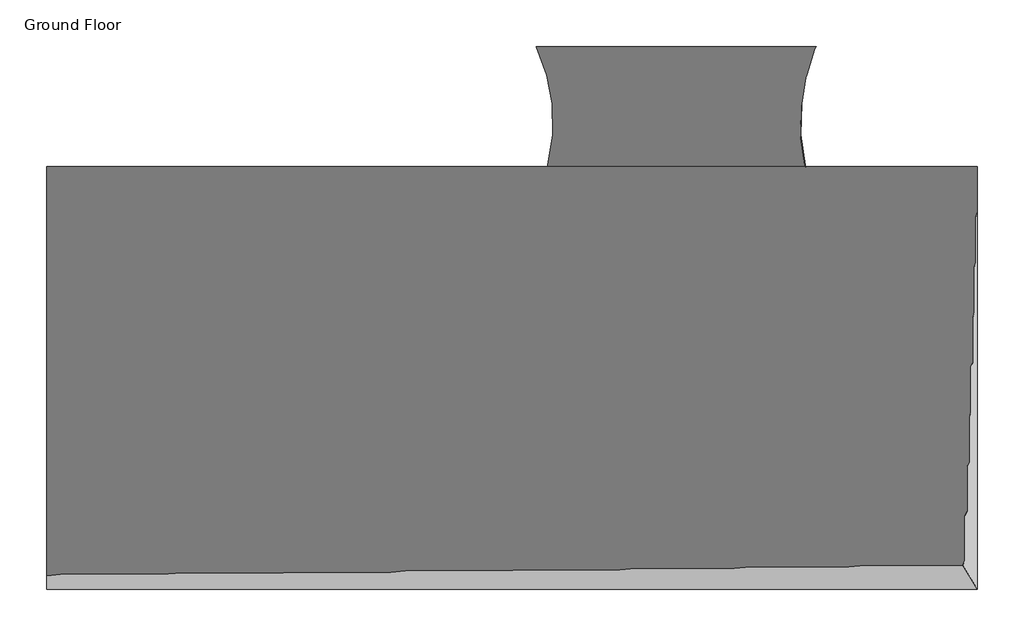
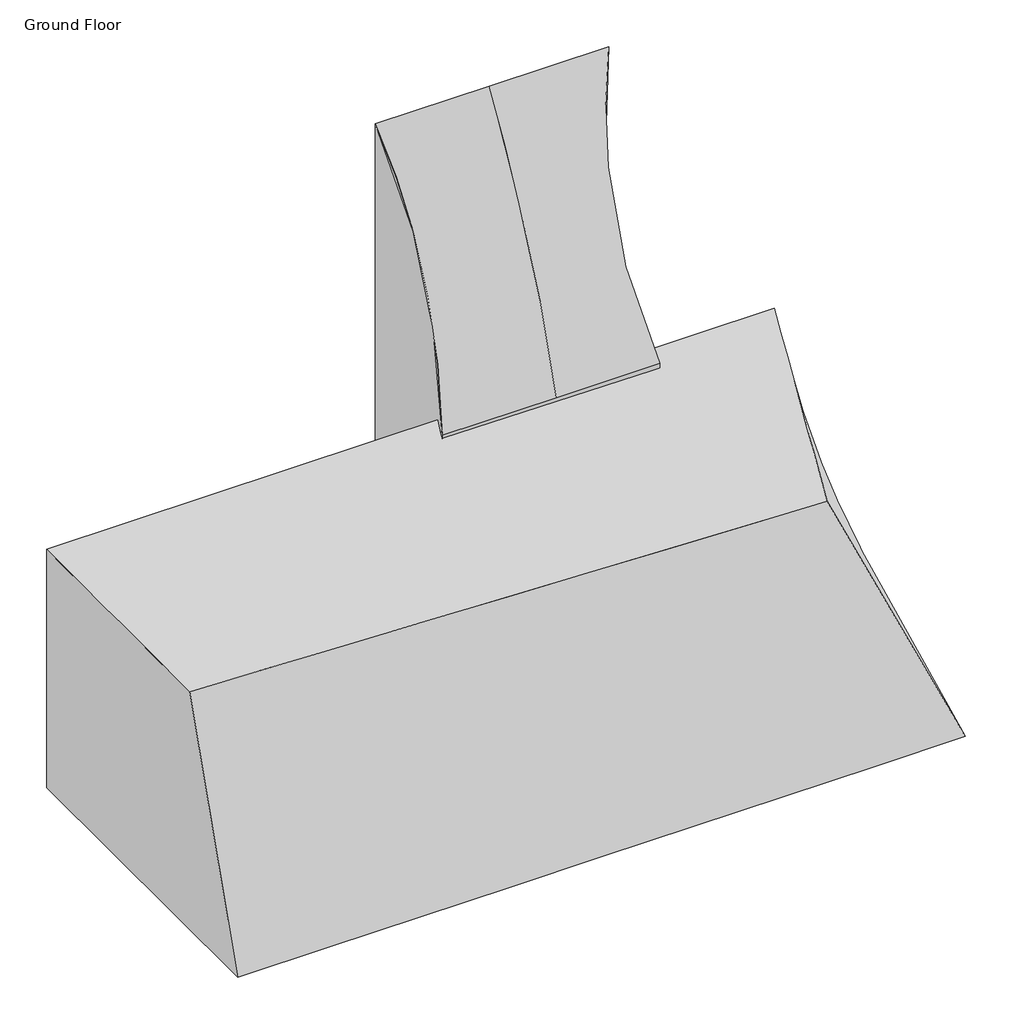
# One storey, incomplete: 2 proxies.
"""IFC4 building model written with IfcOpenShell, lengths in millimetres."""

from ifc_helpers import new_model, si_unit, frame, origin, place, context, project, spatial, element, save
from ifc_brep_helpers import plane_surface, spline_curve, spline_surface, advanced_brep

model = new_model("IFC4")

# Units and contexts
model_context = context("Model", 3, world=origin())
ifc_project = project(units=[si_unit("LENGTHUNIT", "METRE", prefix="MILLI")], contexts=[model_context])

# Site, building, storey
site = spatial("IfcSite", under=ifc_project)
building = spatial("IfcBuilding", under=site)
storey = spatial("IfcBuildingStorey", under=building, Name="Ground Floor", Elevation=0.0)

# Proxies
placement = place(None, origin())
element("IfcBuildingElementProxy", 1, Name="Link : Link", ObjectType="Link : Link", at=placement, inside=storey, context=model_context, shape_type="AdvancedBrep", body=[
    advanced_brep(
    [(7270.6970036, -4151.7172304, 0.0), (-629.3029964, -4151.7172304, 0.0), (-629.3029964, 59.9436409, 0.0), (7270.6970036, 59.9436409, 0.0), (-629.3029964, -4151.7172304, 9144.0), (-629.3029964, 59.9436409, 18531.6945285), (3506.4488398, -4151.7172304, 9144.0), (7270.6970036, -4151.7172304, 9144.0), (7850.5382561, 59.9436409, 18531.6945285), (3506.4488398, 59.9436409, 18531.6945285)],
    [
        (0, 1),
        (1, 2, spline_curve(3, [(-629.3029964, -4151.7172304, 0.0), (-220.675994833, -3316.973143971, 0.0), (-68.87340986, -2452.307830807, 0.0), (-235.97105876, -1028.95322844, 0.0), (-387.773643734, -489.731584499, 0.0), (-629.3029964, 59.9436409, 0.0)], [4, 2, 4], [0.0, 0.6285057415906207, 1.0])),
        (2, 3),
        (3, 0, spline_curve(3, [(7270.6970036, 59.9436409, 0.0), (7072.255422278, -489.731584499, 0.0), (6947.533749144, -1028.95322844, 0.0), (6810.245583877, -2452.307830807, 0.0), (6934.967257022, -3316.973143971, 0.0), (7270.6970036, -4151.7172304, 0.0)], [4, 2, 4], [0.0, 0.37149425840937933, 1.0])),
        (1, 4),
        (4, 5, spline_curve(3, [(-629.3029964, -4151.7172304, 9144.0), (-220.675994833, -3316.973143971, 11264.705932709), (-68.87340986, -2452.307830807, 13288.643374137), (-235.97105876, -1028.95322844, 16354.91440817), (-387.773643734, -489.731584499, 17460.208476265), (-629.3029964, 59.9436409, 18531.6945285)], [4, 2, 4], [0.0, 0.6285057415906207, 1.0])),
        (5, 2),
        (6, 7),
        (7, 8, spline_curve(3, [(7270.6970036, -4151.7172304, 9144.0), (6729.447182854, -3316.973143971, 11264.705932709), (6604.725509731, -2452.307830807, 13288.643374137), (7069.011601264, -1028.95322844, 16354.91440817), (7387.01369193, -489.731584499, 17460.208476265), (7850.5382561, 59.9436409, 18531.6945285)], [4, 2, 4], [0.0, 0.6285057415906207, 1.0])),
        (8, 9),
        (9, 6, spline_curve(3, [(3506.4488398, 59.9436409, 18531.6945285), (3506.4488398, -644.063742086, 17434.069357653), (3506.4488398, -1280.284033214, 16312.346703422), (3506.4488398, -2810.410505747, 13227.991799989), (3506.4488398, -3578.077171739, 11220.482944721), (3506.4488398, -4151.7172304, 9144.0)], [4, 2, 4], [0.0, 0.37149425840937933, 1.0])),
        (7, 0),
        (3, 8),
        (5, 9),
        (6, 4),
    ],
    [
        plane_surface(frame((3320.6970036, -4151.7172304, 0.0), z_axis=(0.0, 0.0, -1.0), x_axis=(-1.0, 0.0, 0.0))),
        spline_surface(3, 3, [[(-629.3029964, -4151.7172304, 0.0), (-220.675994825, -3316.973143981, 0.0), (-68.873409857, -2452.307830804, 0.0), (-235.971058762, -1028.953228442, 0.0), (-387.773643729, -489.731584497, 0.0), (-629.3029964, 59.9436409, 0.0)], [(-629.3029964, -4151.7172304, 3048.0), (-220.675994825, -3316.973143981, 3754.901977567), (-68.873409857, -2452.307830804, 4429.54779138), (-235.971058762, -1028.953228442, 5451.638136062), (-387.773643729, -489.731584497, 5820.06949208), (-629.3029964, 59.9436409, 6177.231509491)], [(-629.3029964, -4151.7172304, 6096.0), (-220.675994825, -3316.973143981, 7509.803955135), (-68.873409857, -2452.307830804, 8859.095582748), (-235.971058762, -1028.953228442, 10903.276272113), (-387.773643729, -489.731584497, 11640.138984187), (-629.3029964, 59.9436409, 12354.463019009)], [(-629.3029964, -4151.7172304, 9144.0), (-220.675994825, -3316.973143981, 11264.705932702), (-68.873409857, -2452.307830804, 13288.643374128), (-235.971058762, -1028.953228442, 16354.914408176), (-387.773643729, -489.731584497, 17460.208476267), (-629.3029964, 59.9436409, 18531.6945285)]], [4, 4], [4, 2, 4], [0.0, 1.0], [0.0, 0.6285057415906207, 1.0]),
        spline_surface(3, 3, [[(3506.4488398, -4151.7172304, 9144.0), (3506.4488398, -3578.077171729, 11220.482944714), (3506.4488398, -2810.41050574, 13227.991799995), (3506.4488398, -1280.284033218, 16312.346703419), (3506.4488398, -644.063742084, 17434.069357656), (3506.4488398, 59.9436409, 18531.6945285)], [(4761.198227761, -4151.7172304, 9144.0), (4580.781620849, -3491.042495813, 11235.22394071), (4539.207729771, -2691.042947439, 13248.208991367), (4693.969760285, -1196.507098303, 16326.535938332), (4799.970457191, -592.619689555, 17442.782397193), (4954.478645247, 59.9436409, 18531.6945285)], [(6015.947615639, -4151.7172304, 9144.0), (5655.114401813, -3404.007819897, 11249.964936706), (5571.966619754, -2571.675389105, 13268.426182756), (5881.490680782, -1112.730163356, 16340.725173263), (6093.492074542, -541.175637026, 17451.49543673), (6402.508450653, 59.9436409, 18531.6945285)], [(7270.6970036, -4151.7172304, 9144.0), (6729.447182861, -3316.973143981, 11264.705932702), (6604.725509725, -2452.307830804, 13288.643374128), (7069.011601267, -1028.953228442, 16354.914408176), (7387.013691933, -489.731584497, 17460.208476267), (7850.5382561, 59.9436409, 18531.6945285)]], [4, 4], [4, 2, 4], [0.0, 1.0], [0.0, 0.6285057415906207, 1.0]),
        spline_surface(3, 3, [[(7270.6970036, -4151.7172304, 9144.0), (6729.447182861, -3316.973143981, 11264.705932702), (6604.725509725, -2452.307830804, 13288.643374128), (7069.011601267, -1028.953228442, 16354.914408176), (7387.013691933, -489.731584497, 17460.208476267), (7850.5382561, 59.9436409, 18531.6945285)], [(7270.6970036, -4151.7172304, 6096.0), (6797.953874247, -3316.973143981, 7509.803955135), (6673.232201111, -2452.307830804, 8859.095582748), (7028.518983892, -1028.953228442, 10903.276272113), (7282.094268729, -489.731584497, 11640.138984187), (7657.257838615, 59.9436409, 12354.463019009)], [(7270.6970036, -4151.7172304, 3048.0), (6866.460565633, -3316.973143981, 3754.901977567), (6741.738892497, -2452.307830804, 4429.54779138), (6988.026366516, -1028.953228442, 5451.638136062), (7177.174845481, -489.731584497, 5820.06949208), (7463.977421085, 59.9436409, 6177.231509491)], [(7270.6970036, -4151.7172304, 0.0), (6934.967257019, -3316.973143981, 0.0), (6810.245583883, -2452.307830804, 0.0), (6947.533749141, -1028.953228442, 0.0), (7072.255422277, -489.731584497, 0.0), (7270.6970036, 59.9436409, 0.0)]], [4, 4], [4, 2, 4], [0.0, 1.0], [0.0, 0.6285057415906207, 1.0]),
        plane_surface(frame((3465.6573168, 59.9436409, 9265.8472642), z_axis=(0.0, 1.0, 0.0), x_axis=(1.0, 0.0, 0.0))),
        plane_surface(frame((3320.6970036, -4151.7172304, 4572.0), z_axis=(0.0, -1.0, 0.0), x_axis=(0.0, 0.0, 1.0))),
        spline_surface(3, 3, [[(-629.3029964, -4151.7172304, 9144.0), (-220.675994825, -3316.973143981, 11264.705932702), (-68.873409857, -2452.307830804, 13288.643374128), (-235.971058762, -1028.953228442, 16354.914408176), (-387.773643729, -489.731584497, 17460.208476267), (-629.3029964, 59.9436409, 18531.6945285)], [(749.280948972, -4151.7172304, 9144.0), (1021.698950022, -3404.007819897, 11249.964936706), (1122.900673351, -2571.675389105, 13268.426182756), (1011.502240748, -1112.730163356, 16340.725173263), (910.300517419, -541.175637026, 17451.49543673), (749.280948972, 59.9436409, 18531.6945285)], [(2127.864894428, -4151.7172304, 9144.0), (2264.073894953, -3491.042495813, 11235.22394071), (2314.674756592, -2691.042947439, 13248.208991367), (2258.97554029, -1196.507098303, 16326.535938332), (2208.374678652, -592.619689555, 17442.782397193), (2127.864894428, 59.9436409, 18531.6945285)], [(3506.4488398, -4151.7172304, 9144.0), (3506.4488398, -3578.077171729, 11220.482944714), (3506.4488398, -2810.41050574, 13227.991799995), (3506.4488398, -1280.284033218, 16312.346703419), (3506.4488398, -644.063742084, 17434.069357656), (3506.4488398, 59.9436409, 18531.6945285)]], [4, 4], [4, 2, 4], [0.0, 1.0], [0.0, 0.6285057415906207, 1.0]),
    ],
    [
        (0, [[1, 2, 3, 4]]),
        (1, [[5, 6, 7, -2]]),
        (2, [[8, 9, 10, 11]]),
        (3, [[12, -4, 13, -9]]),
        (4, [[14, -10, -13, -3, -7]]),
        (5, [[-12, -8, 15, -5, -1]]),
        (6, [[-15, -11, -14, -6]]),
    ],
),
])
element("IfcBuildingElementProxy", 2, Name="Low Rise : Low Rise", ObjectType="Low Rise : Low Rise", at=placement, inside=storey, context=model_context, shape_type="AdvancedBrep", body=[
    advanced_brep(
    [(11884.7517396, -3348.7172324, 0.0), (-14515.2482604, -3348.7172324, 0.0), (-14515.2482604, -3348.7172324, 9144.0), (11884.7517396, -3348.7172324, 9144.0), (-14515.2482604, -15348.9172324, 0.0), (-14515.2482604, -12348.7172324, 9144.0), (11884.7517396, -15348.9172324, 0.0), (9320.0912881, -11129.275012, 7352.389606)],
    [
        (0, 1),
        (1, 2),
        (2, 3),
        (3, 0),
        (1, 4),
        (4, 5),
        (5, 2),
        (4, 6),
        (6, 7),
        (7, 5),
        (6, 0),
        (3, 7),
    ],
    [
        plane_surface(frame((-1315.2482604, -3348.7172324, 0.0), z_axis=(0.0, 1.0, 0.0), x_axis=(-1.0, 0.0, 0.0))),
        plane_surface(frame((-14515.2482604, -9348.8172324, 0.0), z_axis=(-1.0, 0.0, 0.0), x_axis=(0.0, -1.0, 0.0))),
        spline_surface(1, 1, [[(-14515.2482604, -15348.9172324, 0.0), (-14515.2482604, -12348.7172324, 9144.0)], [(11884.7517396, -15348.9172324, 0.0), (9320.0912881, -11129.275012, 7352.389606)]], [2, 2], [2, 2], [0.0, 1.0], [0.0, 1.0]),
        spline_surface(1, 1, [[(11884.7517396, -15348.9172324, 0.0), (9320.0912881, -11129.275012, 7352.389606)], [(11884.7517396, -3348.7172324, 0.0), (11884.7517396, -3348.7172324, 9144.0)]], [2, 2], [2, 2], [0.0, 1.0], [0.0, 1.0]),
        spline_surface(1, 1, [[(9320.0912881, -11129.275012, 7352.389606), (-14515.2482604, -12348.7172324, 9144.0)], [(11884.7517396, -3348.7172324, 9144.0), (-14515.2482604, -3348.7172324, 9144.0)]], [2, 2], [2, 2], [0.0, 1.0], [0.0, 1.0]),
        plane_surface(frame((-1315.2482604, -9348.8172324, 0.0), z_axis=(0.0, 0.0, -1.0), x_axis=(0.0, -1.0, 0.0))),
    ],
    [
        (0, [[1, 2, 3, 4]]),
        (1, [[5, 6, 7, -2]]),
        (2, [[8, 9, 10, -6]]),
        (3, [[11, -4, 12, -9]]),
        (4, [[-10, -12, -3, -7]]),
        (5, [[-11, -8, -5, -1]]),
    ],
),
])

save(model, "model.ifc")
